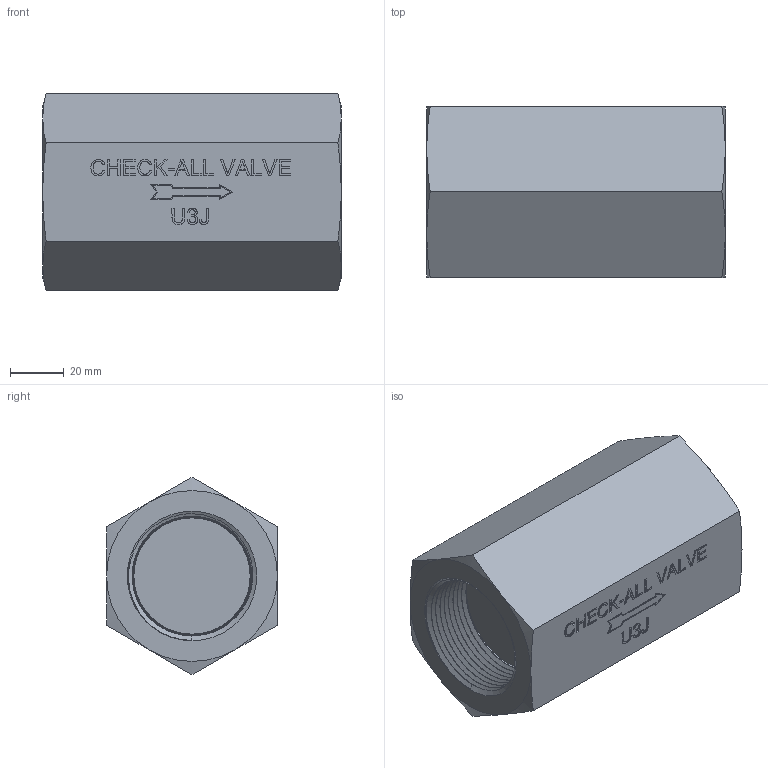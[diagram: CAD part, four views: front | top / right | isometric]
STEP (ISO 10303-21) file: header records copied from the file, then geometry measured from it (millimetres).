
FILE_DESCRIPTION( ( 'Unknown' ), '1' );
FILE_NAME( 'Y:/ENGR/3D Solid Edge Models/U3/U3-PRT/U3J.stp', 'Unknown', ( 'Unknown' ), ( 'Unknown' ), 'PSStep 14.0', 'Unknown', ' ' );
FILE_SCHEMA( ( 'AUTOMOTIVE_DESIGN { 1 0 10303 214 1 1 1 1 }' ) );
Length unit declared in the file: inch
Products named in the file (1): 1
Bounding box: 110.95 x 63.5 x 73.32 mm (x, y, z)
Volume: 323338.8 mm3; surface area: 40935.2 mm2
Topology: 1 solids, 1 shells, 216 faces, 559 edges, 368 vertices
Faces by surface type: extrusion 130, plane 57, cone 16, bspline 13
Entity records: 17635 total; most frequent: CARTESIAN_POINT 11059, ORIENTED_EDGE 1110, DIRECTION 644, EDGE_CURVE 555, VECTOR 464, VERTEX_POINT 366, B_SPLINE_CURVE_WITH_KNOTS 335, LINE 334
